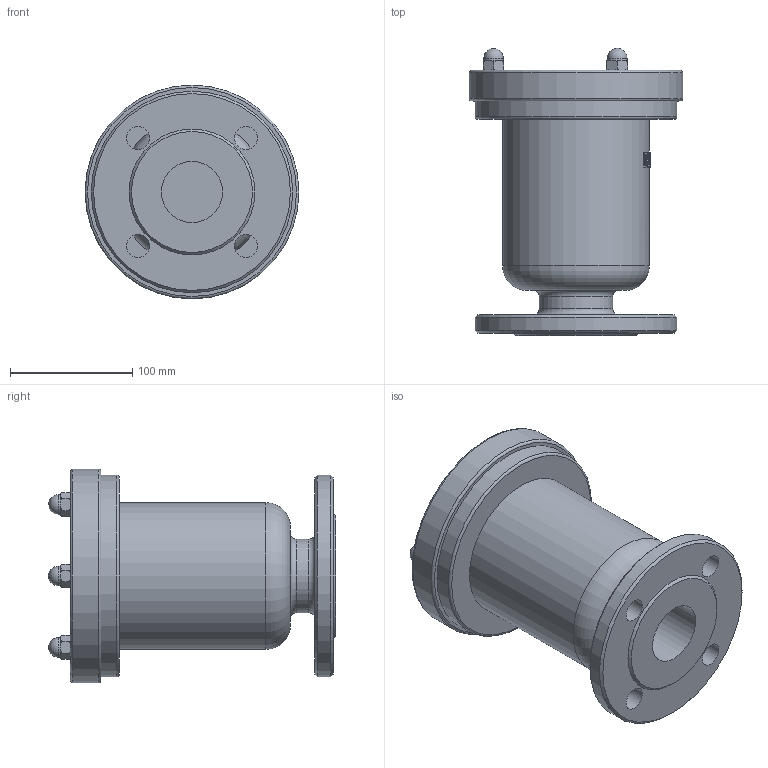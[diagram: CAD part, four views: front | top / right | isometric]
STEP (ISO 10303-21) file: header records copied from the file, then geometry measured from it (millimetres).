
FILE_DESCRIPTION(('STEP AP242'), '1');
FILE_NAME('AV1430-F Âîçäóõîîòâîä÷èê àâòîìàòè÷åñêèé DN.ru Äó50 Ðó10-16', '', ('UNSPECIFIED'), ('UNSPECIFIED'), 'C3D Converter', 'C3D Toolkit', '');
FILE_SCHEMA(('AP242_MANAGED_MODEL_BASED_3D_ENGINEERING_MIM_LF { 1 0 10303 442 1 1 4 }'));
Length unit declared in the file: millimetre
Products named in the file (1): AV1430-F
Bounding box: 175 x 235 x 175 mm (x, y, z)
Volume: 2756117.2 mm3; surface area: 182470.7 mm2
Topology: 1 solids, 5 shells, 178 faces, 417 edges, 265 vertices
Faces by surface type: plane 74, cone 45, cylinder 27, bspline 23, torus 6, sphere 3
Full cylindrical faces by diameter (mm): 5 x3, 8.376 x3, 16 x3, 19 x4, 50 x2, 60 x1, 120 x1, 165 x2, 175 x1
Entity records: 10774 total; most frequent: CARTESIAN_POINT 6051, ORIENTED_EDGE 746, DIRECTION 698, EDGE_CURVE 373, AXIS2_PLACEMENT_3D 295, VERTEX_POINT 259, EDGE_LOOP 240, FACE_BOUND 198
